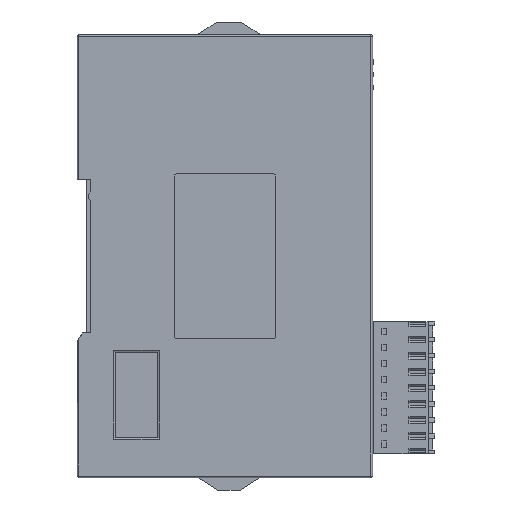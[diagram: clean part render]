
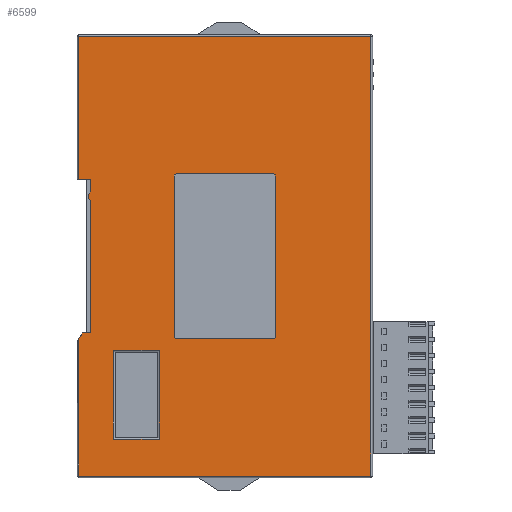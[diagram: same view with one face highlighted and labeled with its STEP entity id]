
A CAD part, left-side view. The second image highlights one B-rep face of the part: STEP entity #6599.
In plain terms, the highlighted planar face has unit normal (-1, 0, 0).
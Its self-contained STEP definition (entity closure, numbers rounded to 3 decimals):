
#6599=ADVANCED_FACE('',(#18702,#18704,#18706),#18708,.T.);
#18702=FACE_BOUND('',#18703,.T.);
#18703=EDGE_LOOP('',(#27324,#27325,#27326,#27327,#27328,#27329,#27330,#27331,#27332,
#27333,#27334));
#18704=FACE_BOUND('',#18705,.T.);
#18705=EDGE_LOOP('',(#27335,#27336,#27337,#27338,#27339,#27340,#27341,#27342));
#18706=FACE_BOUND('',#18707,.T.);
#18707=EDGE_LOOP('',(#27343,#27344,#27345,#27346));
#18708=PLANE('',#18709);
#18709=AXIS2_PLACEMENT_3D('',#18710,#18711,#18712);
#18710=CARTESIAN_POINT('',(-345.903,-44.348,173.566));
#18711=DIRECTION('',(-1.,0.,0.));
#18712=DIRECTION('',(0.,0.,1.));
#27324=ORIENTED_EDGE('',*,*,#33496,.F.);
#27325=ORIENTED_EDGE('',*,*,#33497,.F.);
#27326=ORIENTED_EDGE('',*,*,#33498,.T.);
#27327=ORIENTED_EDGE('',*,*,#33499,.T.);
#27328=ORIENTED_EDGE('',*,*,#33500,.T.);
#27329=ORIENTED_EDGE('',*,*,#33501,.T.);
#27330=ORIENTED_EDGE('',*,*,#33502,.T.);
#27331=ORIENTED_EDGE('',*,*,#33503,.F.);
#27332=ORIENTED_EDGE('',*,*,#33504,.F.);
#27333=ORIENTED_EDGE('',*,*,#33505,.F.);
#27334=ORIENTED_EDGE('',*,*,#32801,.F.);
#27335=ORIENTED_EDGE('',*,*,#33506,.F.);
#27336=ORIENTED_EDGE('',*,*,#33507,.F.);
#27337=ORIENTED_EDGE('',*,*,#33508,.F.);
#27338=ORIENTED_EDGE('',*,*,#33509,.F.);
#27339=ORIENTED_EDGE('',*,*,#33510,.F.);
#27340=ORIENTED_EDGE('',*,*,#33511,.F.);
#27341=ORIENTED_EDGE('',*,*,#33512,.F.);
#27342=ORIENTED_EDGE('',*,*,#33513,.F.);
#27343=ORIENTED_EDGE('',*,*,#33514,.F.);
#27344=ORIENTED_EDGE('',*,*,#33515,.F.);
#27345=ORIENTED_EDGE('',*,*,#33516,.F.);
#27346=ORIENTED_EDGE('',*,*,#33517,.F.);
#32801=EDGE_CURVE('',#38686,#38684,#38688,.T.);
#33496=EDGE_CURVE('',#39799,#38686,#39800,.T.);
#33497=EDGE_CURVE('',#39801,#39799,#39802,.T.);
#33498=EDGE_CURVE('',#39801,#39803,#39804,.T.);
#33499=EDGE_CURVE('',#39803,#39805,#39806,.T.);
#33500=EDGE_CURVE('',#39805,#39807,#39808,.T.);
#33501=EDGE_CURVE('',#39807,#39809,#39810,.T.);
#33502=EDGE_CURVE('',#39809,#39811,#39812,.T.);
#33503=EDGE_CURVE('',#39813,#39811,#39814,.T.);
#33504=EDGE_CURVE('',#39815,#39813,#39816,.T.);
#33505=EDGE_CURVE('',#38684,#39815,#39817,.T.);
#33506=EDGE_CURVE('',#39818,#39819,#39820,.T.);
#33507=EDGE_CURVE('',#39821,#39818,#39822,.T.);
#33508=EDGE_CURVE('',#39823,#39821,#39824,.T.);
#33509=EDGE_CURVE('',#39825,#39823,#39826,.T.);
#33510=EDGE_CURVE('',#39827,#39825,#39828,.T.);
#33511=EDGE_CURVE('',#39829,#39827,#39830,.T.);
#33512=EDGE_CURVE('',#39831,#39829,#39832,.T.);
#33513=EDGE_CURVE('',#39819,#39831,#39833,.T.);
#33514=EDGE_CURVE('',#39834,#39835,#39836,.T.);
#33515=EDGE_CURVE('',#39837,#39834,#39838,.T.);
#33516=EDGE_CURVE('',#39839,#39837,#39840,.T.);
#33517=EDGE_CURVE('',#39835,#39839,#39841,.T.);
#38684=VERTEX_POINT('',#49450);
#38686=VERTEX_POINT('',#49455);
#38688=LINE('',#49460,#49461);
#39799=VERTEX_POINT('',#53876);
#39800=LINE('',#53877,#53878);
#39801=VERTEX_POINT('',#53880);
#39802=LINE('',#53881,#53882);
#39803=VERTEX_POINT('',#53884);
#39804=LINE('',#53885,#53886);
#39805=VERTEX_POINT('',#53888);
#39806=LINE('',#53889,#53890);
#39807=VERTEX_POINT('',#53892);
#39808=CIRCLE('',#53893,2.);
#39809=VERTEX_POINT('',#53897);
#39810=LINE('',#53898,#53899);
#39811=VERTEX_POINT('',#53901);
#39812=LINE('',#53902,#53903);
#39813=VERTEX_POINT('',#53905);
#39814=LINE('',#53906,#53907);
#39815=VERTEX_POINT('',#53909);
#39816=LINE('',#53910,#53911);
#39817=LINE('',#53913,#53914);
#39818=VERTEX_POINT('',#53916);
#39819=VERTEX_POINT('',#53917);
#39820=LINE('',#53918,#53919);
#39821=VERTEX_POINT('',#53921);
#39822=CIRCLE('',#53922,0.5);
#39823=VERTEX_POINT('',#53926);
#39824=LINE('',#53927,#53928);
#39825=VERTEX_POINT('',#53930);
#39826=CIRCLE('',#53931,0.5);
#39827=VERTEX_POINT('',#53935);
#39828=LINE('',#53936,#53937);
#39829=VERTEX_POINT('',#53939);
#39830=CIRCLE('',#53940,0.5);
#39831=VERTEX_POINT('',#53944);
#39832=LINE('',#53945,#53946);
#39833=CIRCLE('',#53948,0.5);
#39834=VERTEX_POINT('',#53952);
#39835=VERTEX_POINT('',#53953);
#39836=LINE('',#53954,#53955);
#39837=VERTEX_POINT('',#53957);
#39838=LINE('',#53958,#53959);
#39839=VERTEX_POINT('',#53961);
#39840=LINE('',#53962,#53963);
#39841=LINE('',#53965,#53966);
#49450=CARTESIAN_POINT('',(-345.903,-120.48,183.998));
#49455=CARTESIAN_POINT('',(-345.903,-120.48,288.198));
#49460=CARTESIAN_POINT('',(-345.903,-120.48,288.198));
#49461=VECTOR('',#49462,1.);
#49462=DIRECTION('',(0.,0.,-1.));
#53876=CARTESIAN_POINT('',(-345.903,-51.28,288.198));
#53877=CARTESIAN_POINT('',(-345.903,-51.28,288.198));
#53878=VECTOR('',#53879,1.);
#53879=DIRECTION('',(0.,-1.,0.));
#53880=CARTESIAN_POINT('',(-345.903,-51.28,254.298));
#53881=CARTESIAN_POINT('',(-345.903,-51.28,254.298));
#53882=VECTOR('',#53883,1.);
#53883=DIRECTION('',(0.,0.,1.));
#53884=CARTESIAN_POINT('',(-345.903,-54.08,254.298));
#53885=CARTESIAN_POINT('',(-345.903,-51.28,254.298));
#53886=VECTOR('',#53887,1.);
#53887=DIRECTION('',(0.,-1.,0.));
#53888=CARTESIAN_POINT('',(-345.903,-54.08,251.62));
#53889=CARTESIAN_POINT('',(-345.903,-54.08,254.298));
#53890=VECTOR('',#53891,1.);
#53891=DIRECTION('',(0.,0.,-1.));
#53892=CARTESIAN_POINT('',(-345.903,-54.08,248.975));
#53893=AXIS2_PLACEMENT_3D('',#53894,#53895,#53896);
#53894=CARTESIAN_POINT('',(-345.903,-55.58,250.298));
#53895=DIRECTION('',(-1.,0.,0.));
#53896=DIRECTION('',(0.,0.75,0.661));
#53897=CARTESIAN_POINT('',(-345.903,-54.08,217.898));
#53898=CARTESIAN_POINT('',(-345.903,-54.08,248.975));
#53899=VECTOR('',#53900,1.);
#53900=DIRECTION('',(0.,0.,-1.));
#53901=CARTESIAN_POINT('',(-345.903,-52.08,217.898));
#53902=CARTESIAN_POINT('',(-345.903,-54.08,217.898));
#53903=VECTOR('',#53904,1.);
#53904=DIRECTION('',(0.,1.,0.));
#53905=CARTESIAN_POINT('',(-345.903,-51.28,216.564));
#53906=CARTESIAN_POINT('',(-345.903,-51.28,216.564));
#53907=VECTOR('',#53908,1.);
#53908=DIRECTION('',(0.,-0.515,0.857));
#53909=CARTESIAN_POINT('',(-345.903,-51.28,183.998));
#53910=CARTESIAN_POINT('',(-345.903,-51.28,183.998));
#53911=VECTOR('',#53912,1.);
#53912=DIRECTION('',(0.,0.,1.));
#53913=CARTESIAN_POINT('',(-345.903,-120.48,183.998));
#53914=VECTOR('',#53915,1.);
#53915=DIRECTION('',(0.,1.,0.));
#53916=CARTESIAN_POINT('',(-345.903,-97.38,255.598));
#53917=CARTESIAN_POINT('',(-345.903,-74.38,255.598));
#53918=CARTESIAN_POINT('',(-345.903,-97.38,255.598));
#53919=VECTOR('',#53920,1.);
#53920=DIRECTION('',(0.,1.,0.));
#53921=CARTESIAN_POINT('',(-345.903,-97.88,255.098));
#53922=AXIS2_PLACEMENT_3D('',#53923,#53924,#53925);
#53923=CARTESIAN_POINT('',(-345.903,-97.38,255.098));
#53924=DIRECTION('',(-1.,0.,0.));
#53925=DIRECTION('',(0.,-1.,0.));
#53926=CARTESIAN_POINT('',(-345.903,-97.88,217.098));
#53927=CARTESIAN_POINT('',(-345.903,-97.88,217.098));
#53928=VECTOR('',#53929,1.);
#53929=DIRECTION('',(0.,0.,1.));
#53930=CARTESIAN_POINT('',(-345.903,-97.38,216.598));
#53931=AXIS2_PLACEMENT_3D('',#53932,#53933,#53934);
#53932=CARTESIAN_POINT('',(-345.903,-97.38,217.098));
#53933=DIRECTION('',(-1.,0.,0.));
#53934=DIRECTION('',(0.,0.,-1.));
#53935=CARTESIAN_POINT('',(-345.903,-74.38,216.598));
#53936=CARTESIAN_POINT('',(-345.903,-74.38,216.598));
#53937=VECTOR('',#53938,1.);
#53938=DIRECTION('',(0.,-1.,0.));
#53939=CARTESIAN_POINT('',(-345.903,-73.88,217.098));
#53940=AXIS2_PLACEMENT_3D('',#53941,#53942,#53943);
#53941=CARTESIAN_POINT('',(-345.903,-74.38,217.098));
#53942=DIRECTION('',(-1.,0.,0.));
#53943=DIRECTION('',(0.,1.,0.));
#53944=CARTESIAN_POINT('',(-345.903,-73.88,255.098));
#53945=CARTESIAN_POINT('',(-345.903,-73.88,255.098));
#53946=VECTOR('',#53947,1.);
#53947=DIRECTION('',(0.,0.,-1.));
#53948=AXIS2_PLACEMENT_3D('',#53949,#53950,#53951);
#53949=CARTESIAN_POINT('',(-345.903,-74.38,255.098));
#53950=DIRECTION('',(-1.,0.,0.));
#53951=DIRECTION('',(0.,0.,1.));
#53952=CARTESIAN_POINT('',(-345.903,-70.34,192.748));
#53953=CARTESIAN_POINT('',(-345.903,-70.34,213.748));
#53954=CARTESIAN_POINT('',(-345.903,-70.34,192.748));
#53955=VECTOR('',#53956,1.);
#53956=DIRECTION('',(0.,0.,1.));
#53957=CARTESIAN_POINT('',(-345.903,-59.45,192.748));
#53958=CARTESIAN_POINT('',(-345.903,-59.45,192.748));
#53959=VECTOR('',#53960,1.);
#53960=DIRECTION('',(0.,-1.,0.));
#53961=CARTESIAN_POINT('',(-345.903,-59.45,213.748));
#53962=CARTESIAN_POINT('',(-345.903,-59.45,213.748));
#53963=VECTOR('',#53964,1.);
#53964=DIRECTION('',(0.,0.,-1.));
#53965=CARTESIAN_POINT('',(-345.903,-70.34,213.748));
#53966=VECTOR('',#53967,1.);
#53967=DIRECTION('',(0.,1.,0.));
